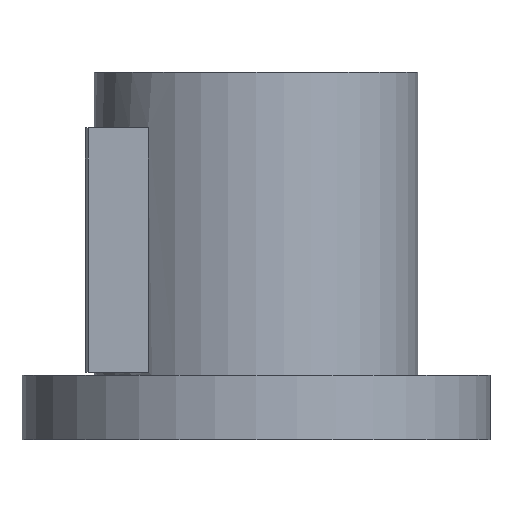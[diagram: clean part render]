
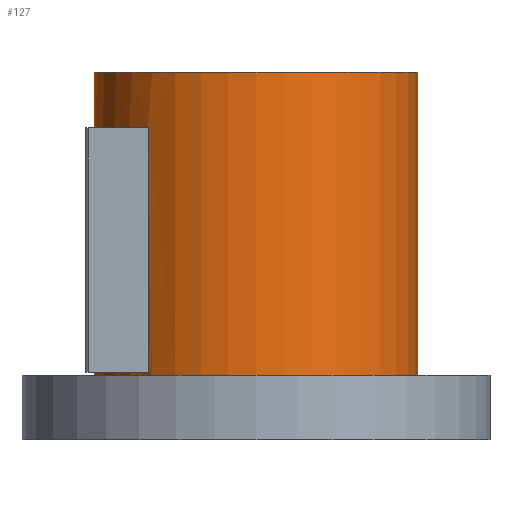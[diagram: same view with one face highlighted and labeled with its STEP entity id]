
A CAD part, front view. The second image highlights one B-rep face of the part: STEP entity #127.
In plain terms, the highlighted cylindrical face has radius 55 mm (diameter 110 mm), a full revolution.
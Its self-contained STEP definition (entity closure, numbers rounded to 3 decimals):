
#127=ADVANCED_FACE('',(#200,#201,#202),#155,.T.);
#155=CYLINDRICAL_SURFACE('',#508,55.);
#168=LINE('',#698,#184);
#169=LINE('',#702,#185);
#184=VECTOR('',#568,1.);
#185=VECTOR('',#571,1.);
#200=FACE_BOUND('',#245,.T.);
#201=FACE_BOUND('',#246,.T.);
#202=FACE_BOUND('',#247,.T.);
#245=EDGE_LOOP('',(#305));
#246=EDGE_LOOP('',(#306));
#247=EDGE_LOOP('',(#307,#308,#309,#310));
#305=ORIENTED_EDGE('',*,*,#431,.F.);
#306=ORIENTED_EDGE('',*,*,#432,.T.);
#307=ORIENTED_EDGE('',*,*,#433,.F.);
#308=ORIENTED_EDGE('',*,*,#434,.F.);
#309=ORIENTED_EDGE('',*,*,#435,.T.);
#310=ORIENTED_EDGE('',*,*,#436,.F.);
#393=VERTEX_POINT('',#692);
#394=VERTEX_POINT('',#694);
#395=VERTEX_POINT('',#696);
#396=VERTEX_POINT('',#697);
#397=VERTEX_POINT('',#699);
#398=VERTEX_POINT('',#701);
#431=EDGE_CURVE('',#393,#393,#475,.T.);
#432=EDGE_CURVE('',#394,#394,#476,.T.);
#433=EDGE_CURVE('',#395,#396,#477,.T.);
#434=EDGE_CURVE('',#397,#395,#168,.T.);
#435=EDGE_CURVE('',#397,#398,#478,.T.);
#436=EDGE_CURVE('',#396,#398,#169,.T.);
#475=CIRCLE('',#504,55.);
#476=CIRCLE('',#505,55.);
#477=CIRCLE('',#506,55.);
#478=CIRCLE('',#507,55.);
#504=AXIS2_PLACEMENT_3D('',#691,#562,#563);
#505=AXIS2_PLACEMENT_3D('',#693,#564,#565);
#506=AXIS2_PLACEMENT_3D('',#695,#566,#567);
#507=AXIS2_PLACEMENT_3D('',#700,#569,#570);
#508=AXIS2_PLACEMENT_3D('',#703,#572,#573);
#562=DIRECTION('',(0.,0.,1.));
#563=DIRECTION('',(1.,0.,0.));
#564=DIRECTION('',(0.,0.,1.));
#565=DIRECTION('',(1.,0.,0.));
#566=DIRECTION('',(0.,0.,-1.));
#567=DIRECTION('',(-1.,0.,0.));
#568=DIRECTION('',(0.,0.,1.));
#569=DIRECTION('',(0.,0.,-1.));
#570=DIRECTION('',(-1.,0.,0.));
#571=DIRECTION('',(0.,0.,-1.));
#572=DIRECTION('',(0.,0.,-1.));
#573=DIRECTION('',(-1.,0.,0.));
#691=CARTESIAN_POINT('',(0.,0.,125.));
#692=CARTESIAN_POINT('',(55.,0.,125.));
#693=CARTESIAN_POINT('',(0.,0.,22.));
#694=CARTESIAN_POINT('',(55.,0.,22.));
#695=CARTESIAN_POINT('',(0.,0.,106.));
#696=CARTESIAN_POINT('',(-36.661,-41.,106.));
#697=CARTESIAN_POINT('',(-36.661,41.,106.));
#698=CARTESIAN_POINT('',(-36.661,-41.,125.));
#699=CARTESIAN_POINT('',(-36.661,-41.,23.));
#700=CARTESIAN_POINT('',(0.,0.,23.));
#701=CARTESIAN_POINT('',(-36.661,41.,23.));
#702=CARTESIAN_POINT('',(-36.661,41.,125.));
#703=CARTESIAN_POINT('',(0.,0.,125.));
